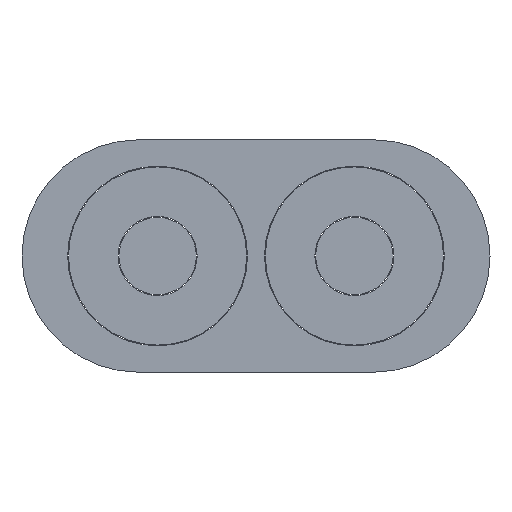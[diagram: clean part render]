
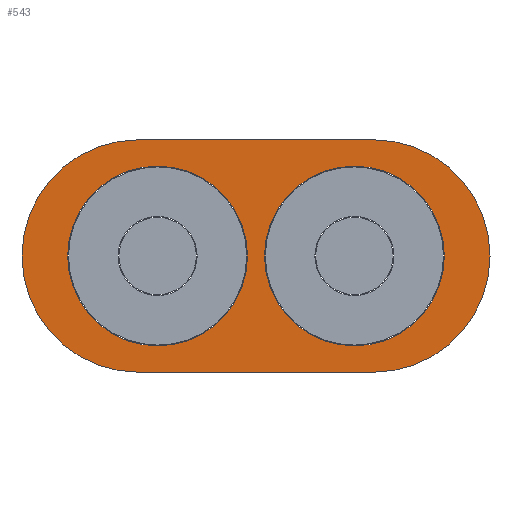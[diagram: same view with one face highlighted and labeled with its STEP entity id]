
A CAD part, front view. The second image highlights one B-rep face of the part: STEP entity #543.
In plain terms, the highlighted planar face has unit normal (0, -1, 0).
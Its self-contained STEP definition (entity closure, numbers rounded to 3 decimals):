
#10 = DIRECTION ( 'NONE',  ( 1., 0., 0. ) ) ;
#12 = CIRCLE ( 'NONE', #312, 0.58 ) ;
#13 = EDGE_LOOP ( 'NONE', ( #16, #289, #579, #696 ) ) ;
#16 = ORIENTED_EDGE ( 'NONE', *, *, #629, .F. ) ;
#33 = VERTEX_POINT ( 'NONE', #519 ) ;
#38 = CARTESIAN_POINT ( 'NONE',  ( 1.52, 0., 0. ) ) ;
#45 = EDGE_CURVE ( 'NONE', #503, #625, #12, .T. ) ;
#62 = LINE ( 'NONE', #136, #796 ) ;
#82 = CARTESIAN_POINT ( 'NONE',  ( 0., 0., -0.75 ) ) ;
#106 = AXIS2_PLACEMENT_3D ( 'NONE', #782, #227, #778 ) ;
#136 = CARTESIAN_POINT ( 'NONE',  ( 0., 0., 0.75 ) ) ;
#144 = DIRECTION ( 'NONE',  ( 0., 0., 1. ) ) ;
#146 = ORIENTED_EDGE ( 'NONE', *, *, #300, .T. ) ;
#152 = FACE_OUTER_BOUND ( 'NONE', #13, .T. ) ;
#168 = DIRECTION ( 'NONE',  ( 0., 1., 0. ) ) ;
#183 = VERTEX_POINT ( 'NONE', #392 ) ;
#205 = FACE_BOUND ( 'NONE', #439, .T. ) ;
#220 = CARTESIAN_POINT ( 'NONE',  ( 1.395, 0., 0.58 ) ) ;
#227 = DIRECTION ( 'NONE',  ( 0., 1., 0. ) ) ;
#243 = DIRECTION ( 'NONE',  ( 0., 1., 0. ) ) ;
#246 = AXIS2_PLACEMENT_3D ( 'NONE', #484, #754, #144 ) ;
#256 = ORIENTED_EDGE ( 'NONE', *, *, #637, .T. ) ;
#265 = VERTEX_POINT ( 'NONE', #748 ) ;
#267 = CARTESIAN_POINT ( 'NONE',  ( 0.125, 0., 0. ) ) ;
#289 = ORIENTED_EDGE ( 'NONE', *, *, #458, .F. ) ;
#295 = AXIS2_PLACEMENT_3D ( 'NONE', #267, #486, #540 ) ;
#300 = EDGE_CURVE ( 'NONE', #625, #503, #606, .T. ) ;
#312 = AXIS2_PLACEMENT_3D ( 'NONE', #585, #243, #659 ) ;
#345 = VERTEX_POINT ( 'NONE', #553 ) ;
#348 = CIRCLE ( 'NONE', #468, 0.75 ) ;
#352 = EDGE_CURVE ( 'NONE', #33, #183, #62, .T. ) ;
#365 = CIRCLE ( 'NONE', #106, 0.58 ) ;
#370 = CARTESIAN_POINT ( 'NONE',  ( 0.125, 0., 0.58 ) ) ;
#373 = ORIENTED_EDGE ( 'NONE', *, *, #45, .T. ) ;
#374 = CARTESIAN_POINT ( 'NONE',  ( 0., 0., 0. ) ) ;
#380 = DIRECTION ( 'NONE',  ( 0., 1., 0. ) ) ;
#392 = CARTESIAN_POINT ( 'NONE',  ( 1.52, 0., 0.75 ) ) ;
#427 = PLANE ( 'NONE',  #246 ) ;
#437 = VERTEX_POINT ( 'NONE', #220 ) ;
#439 = EDGE_LOOP ( 'NONE', ( #256, #707 ) ) ;
#444 = DIRECTION ( 'NONE',  ( 0., 0., 1. ) ) ;
#456 = CARTESIAN_POINT ( 'NONE',  ( 0.125, 0., -0.58 ) ) ;
#458 = EDGE_CURVE ( 'NONE', #569, #265, #502, .T. ) ;
#468 = AXIS2_PLACEMENT_3D ( 'NONE', #38, #168, #444 ) ;
#484 = CARTESIAN_POINT ( 'NONE',  ( 0., 0., 0. ) ) ;
#486 = DIRECTION ( 'NONE',  ( 0., 1., 0. ) ) ;
#493 = DIRECTION ( 'NONE',  ( -1., 0., 0. ) ) ;
#502 = LINE ( 'NONE', #82, #720 ) ;
#503 = VERTEX_POINT ( 'NONE', #370 ) ;
#519 = CARTESIAN_POINT ( 'NONE',  ( 0., 0., 0.75 ) ) ;
#540 = DIRECTION ( 'NONE',  ( 0., 0., 1. ) ) ;
#543 = ADVANCED_FACE ( 'NONE', ( #689, #205, #152 ), #427, .F. ) ;
#553 = CARTESIAN_POINT ( 'NONE',  ( 1.395, 0., -0.58 ) ) ;
#569 = VERTEX_POINT ( 'NONE', #834 ) ;
#572 = DIRECTION ( 'NONE',  ( 0., 1., 0. ) ) ;
#576 = DIRECTION ( 'NONE',  ( 0., 0., 1. ) ) ;
#579 = ORIENTED_EDGE ( 'NONE', *, *, #667, .F. ) ;
#585 = CARTESIAN_POINT ( 'NONE',  ( 0.125, 0., 0. ) ) ;
#606 = CIRCLE ( 'NONE', #295, 0.58 ) ;
#625 = VERTEX_POINT ( 'NONE', #456 ) ;
#629 = EDGE_CURVE ( 'NONE', #265, #33, #749, .T. ) ;
#631 = AXIS2_PLACEMENT_3D ( 'NONE', #374, #572, #576 ) ;
#637 = EDGE_CURVE ( 'NONE', #437, #345, #365, .T. ) ;
#650 = DIRECTION ( 'NONE',  ( 0., 0., 1. ) ) ;
#659 = DIRECTION ( 'NONE',  ( 0., 0., 1. ) ) ;
#667 = EDGE_CURVE ( 'NONE', #183, #569, #348, .T. ) ;
#672 = EDGE_CURVE ( 'NONE', #345, #437, #690, .T. ) ;
#689 = FACE_BOUND ( 'NONE', #775, .T. ) ;
#690 = CIRCLE ( 'NONE', #808, 0.58 ) ;
#696 = ORIENTED_EDGE ( 'NONE', *, *, #352, .F. ) ;
#707 = ORIENTED_EDGE ( 'NONE', *, *, #672, .T. ) ;
#715 = CARTESIAN_POINT ( 'NONE',  ( 1.395, 0., 0. ) ) ;
#720 = VECTOR ( 'NONE', #493, 1000. ) ;
#748 = CARTESIAN_POINT ( 'NONE',  ( 0., 0., -0.75 ) ) ;
#749 = CIRCLE ( 'NONE', #631, 0.75 ) ;
#754 = DIRECTION ( 'NONE',  ( 0., 1., 0. ) ) ;
#775 = EDGE_LOOP ( 'NONE', ( #373, #146 ) ) ;
#778 = DIRECTION ( 'NONE',  ( 0., 0., 1. ) ) ;
#782 = CARTESIAN_POINT ( 'NONE',  ( 1.395, 0., 0. ) ) ;
#796 = VECTOR ( 'NONE', #10, 1000. ) ;
#808 = AXIS2_PLACEMENT_3D ( 'NONE', #715, #380, #650 ) ;
#834 = CARTESIAN_POINT ( 'NONE',  ( 1.52, 0., -0.75 ) ) ;
